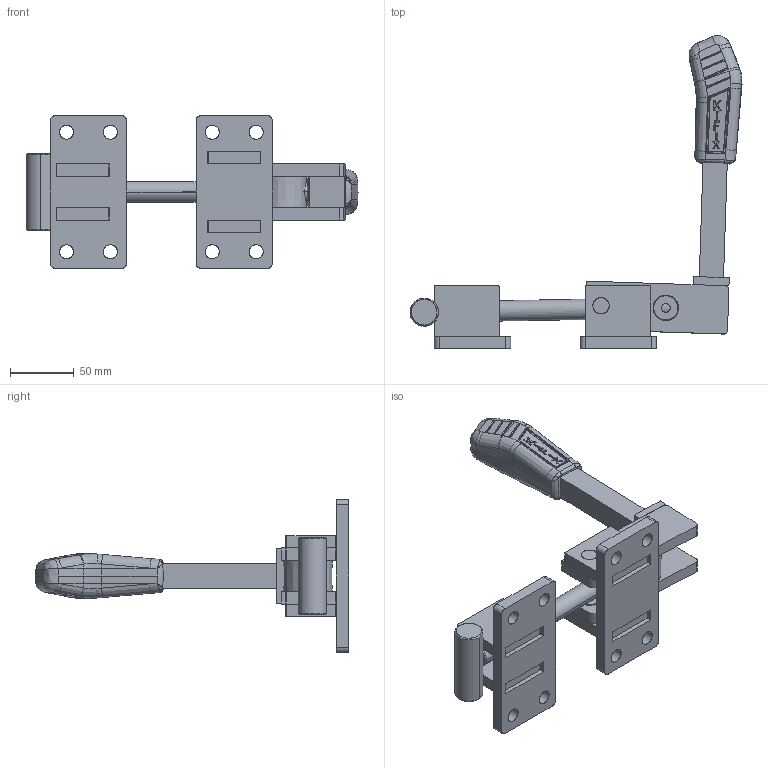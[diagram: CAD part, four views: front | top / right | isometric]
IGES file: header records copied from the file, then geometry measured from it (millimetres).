
Start section: SolidWorks IGES file using analytic representation for surfaces
Global section: file name: C:\Projetos\Grampos\KF-350\KF-350.IGS; native system: SolidWorks 2018; preprocessor: SolidWorks 2018; author: Ricardo; date: 180306.132451; units: millimetre
Bounding box: 260.99 x 246.15 x 120 mm (x, y, z)
Surface area: 147350.5 mm2 (no closed solid volume)
Topology: 0 solids, 0 shells, 733 faces, 8308 edges, 8286 vertices
Faces by surface type: bspline 514, revolution 219
